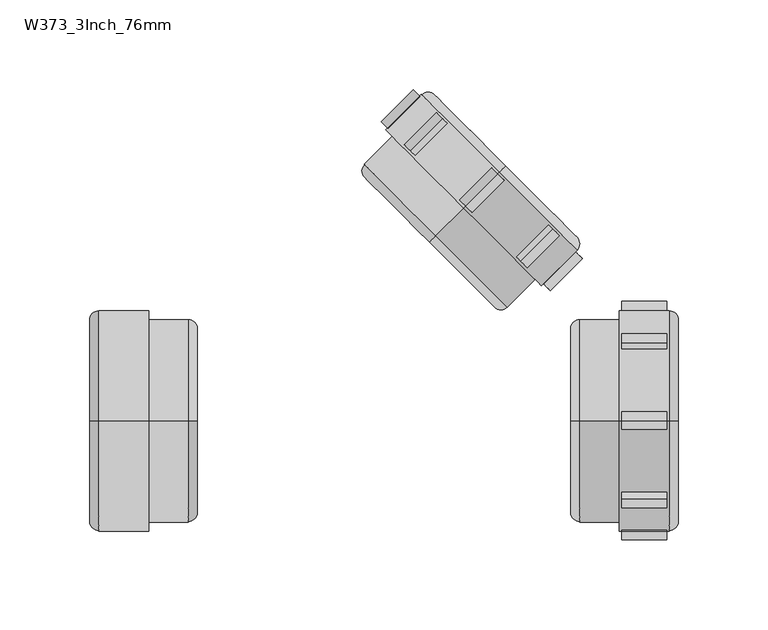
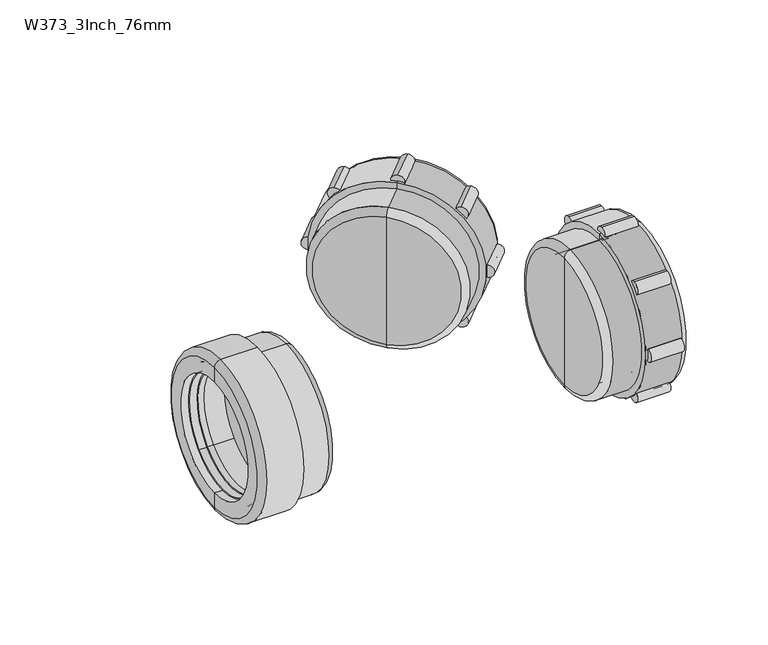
"""IFC4 building model written with IfcOpenShell, lengths in millimetres: pipe fitting geometry, Durapipe_PipeFitting_VulcatheneMechanical_SingleWye_W37 : W373_3Inch_76mm."""

from ifc_helpers import new_model, si_unit, point, frame, frame_2d, origin, place, context, project, spatial, polyline, circle_curve, ellipse_curve, trimmed, segment, composite_curve, outline, extrude, source, transform, mapped, element, save
from ifc_brep_helpers import plane_surface, cylinder_surface, revolved_surface, advanced_brep


def w373_3inch_76mm_de6eb33f(model_context):
    return source(origin(), model_context, "Body", "SolidModel", [
        advanced_brep(
        [(162.7701369, 111.8701369, -35.9917352), (159.4701369, 115.1701369, -31.3248304), (115.1701369, 159.4701369, 31.3248304), (111.8701369, 162.7701369, 35.9917352), (99.7158692, 146.2158692, 32.8804653), (146.2158692, 99.7158692, -32.8804653), (128.7503318, 82.2503318, -32.8804653), (82.2503318, 128.7503318, 32.8804653), (83.3503318, 127.6503318, 31.3248304), (127.6503318, 83.3503318, -31.3248304), (107.6040943, 151.9040943, 31.3248304), (151.9040943, 107.6040943, -31.3248304), (108.0540943, 151.4540943, 30.6884343), (151.4540943, 108.0540943, -30.6884343), (155.1567855, 110.8567855, -31.3248304), (154.7067855, 111.3067855, -30.6884343), (111.3067855, 154.7067855, 30.6884343), (110.8567855, 155.1567855, 31.3248304)],
        [
            (0, 1),
            (1, 2, circle_curve(frame((137.3201369, 137.3201369, 0.0), z_axis=(-0.7071067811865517, -0.7071067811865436, 0.0), x_axis=(-0.4999999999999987, 0.5000000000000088, 0.7071067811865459)), 44.3)),
            (2, 3),
            (3, 0, circle_curve(frame((137.3201369, 137.3201369, 0.0), z_axis=(0.7071067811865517, 0.7071067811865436, 0.0), x_axis=(-0.4999999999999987, 0.5000000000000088, 0.7071067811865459)), 50.9)),
            (2, 1, circle_curve(frame((137.3201369, 137.3201369, 0.0), z_axis=(-0.7071067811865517, -0.7071067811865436, 0.0), x_axis=(-0.4999999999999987, 0.5000000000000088, 0.7071067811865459)), 44.3)),
            (0, 3, circle_curve(frame((137.3201369, 137.3201369, 0.0), z_axis=(0.7071067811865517, 0.7071067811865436, 0.0), x_axis=(-0.4999999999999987, 0.5000000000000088, 0.7071067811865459)), 50.9)),
            (3, 4),
            (4, 5, circle_curve(frame((122.9658692, 122.9658692, 0.0), z_axis=(0.7071067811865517, 0.7071067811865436, 0.0), x_axis=(-0.4999999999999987, 0.5000000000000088, 0.7071067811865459)), 46.5)),
            (5, 0),
            (5, 4, circle_curve(frame((122.9658692, 122.9658692, 0.0), z_axis=(0.7071067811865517, 0.7071067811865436, 0.0), x_axis=(-0.4999999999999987, 0.5000000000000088, 0.7071067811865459)), 46.5)),
            (6, 5),
            (4, 7),
            (7, 6, circle_curve(frame((105.5003318, 105.5003318, 0.0), z_axis=(0.7071067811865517, 0.7071067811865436, 0.0), x_axis=(-0.4999999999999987, 0.5000000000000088, 0.7071067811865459)), 46.5)),
            (6, 7, circle_curve(frame((105.5003318, 105.5003318, 0.0), z_axis=(0.7071067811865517, 0.7071067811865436, 0.0), x_axis=(-0.4999999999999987, 0.5000000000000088, 0.7071067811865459)), 46.5)),
            (7, 8),
            (8, 9, circle_curve(frame((105.5003318, 105.5003318, 0.0), z_axis=(0.7071067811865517, 0.7071067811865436, 0.0), x_axis=(-0.4999999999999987, 0.5000000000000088, 0.7071067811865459)), 44.3)),
            (9, 6),
            (9, 8, circle_curve(frame((105.5003318, 105.5003318, 0.0), z_axis=(0.7071067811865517, 0.7071067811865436, 0.0), x_axis=(-0.4999999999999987, 0.5000000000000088, 0.7071067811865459)), 44.3)),
            (8, 10),
            (10, 11, circle_curve(frame((129.7540943, 129.7540943, 0.0), z_axis=(0.7071067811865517, 0.7071067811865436, 0.0), x_axis=(-0.4999999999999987, 0.5000000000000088, 0.7071067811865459)), 44.3)),
            (11, 9),
            (11, 10, circle_curve(frame((129.7540943, 129.7540943, 0.0), z_axis=(0.7071067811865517, 0.7071067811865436, 0.0), x_axis=(-0.4999999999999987, 0.5000000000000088, 0.7071067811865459)), 44.3)),
            (10, 12),
            (12, 13, circle_curve(frame((129.7540943, 129.7540943, 0.0), z_axis=(0.7071067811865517, 0.7071067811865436, 0.0), x_axis=(-0.4999999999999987, 0.5000000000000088, 0.7071067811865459)), 43.4)),
            (13, 11),
            (13, 12, circle_curve(frame((129.7540943, 129.7540943, 0.0), z_axis=(0.7071067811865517, 0.7071067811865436, 0.0), x_axis=(-0.4999999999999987, 0.5000000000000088, 0.7071067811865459)), 43.4)),
            (14, 15),
            (15, 16, circle_curve(frame((133.0067855, 133.0067855, 0.0), z_axis=(-0.7071067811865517, -0.7071067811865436, 0.0), x_axis=(-0.4999999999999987, 0.5000000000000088, 0.7071067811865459)), 43.4)),
            (16, 17),
            (17, 14, circle_curve(frame((133.0067855, 133.0067855, 0.0), z_axis=(0.7071067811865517, 0.7071067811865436, 0.0), x_axis=(-0.4999999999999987, 0.5000000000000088, 0.7071067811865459)), 44.3)),
            (16, 15, circle_curve(frame((133.0067855, 133.0067855, 0.0), z_axis=(-0.7071067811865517, -0.7071067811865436, 0.0), x_axis=(-0.4999999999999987, 0.5000000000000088, 0.7071067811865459)), 43.4)),
            (14, 17, circle_curve(frame((133.0067855, 133.0067855, 0.0), z_axis=(0.7071067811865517, 0.7071067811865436, 0.0), x_axis=(-0.4999999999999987, 0.5000000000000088, 0.7071067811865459)), 44.3)),
            (1, 14),
            (17, 2),
            (12, 16),
            (15, 13),
        ],
        [
            plane_surface(frame((137.3201369, 137.3201369, 0.0), z_axis=(0.7071067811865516, 0.7071067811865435, 0.0), x_axis=(-0.4999999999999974, 0.5000000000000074, 0.707106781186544))),
            revolved_surface(polyline([(111.8701369, 162.7701369, 35.9917352), (99.7158692, 146.2158692, 32.8804653)]), (140.8556708, 140.8556708, 0.0), (-0.7071067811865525, -0.7071067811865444, 0.0)),
            cylinder_surface(frame((104.0361571, 104.0361571, 0.0), z_axis=(-0.7071067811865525, -0.7071067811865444, 0.0), x_axis=(-0.4999999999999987, 0.5000000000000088, 0.7071067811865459)), 46.5),
            plane_surface(frame((105.5003318, 105.5003318, 0.0), z_axis=(-0.7071067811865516, -0.7071067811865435, 0.0), x_axis=(-0.4999999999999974, 0.5000000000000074, 0.707106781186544))),
            revolved_surface(polyline([(83.35033179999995, 127.65033180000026, 31.324830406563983), (107.6040943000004, 151.90409430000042, 31.324830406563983)]), (103.0304142, 103.0304142, 0.0), (-0.7071067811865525, -0.7071067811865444, 0.0)),
            plane_surface(frame((129.7540943, 129.7540943, 0.0), z_axis=(-0.7071067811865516, -0.7071067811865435, 0.0), x_axis=(-0.4999999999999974, 0.5000000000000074, 0.707106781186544))),
            plane_surface(frame((133.0067855, 133.0067855, 0.0), z_axis=(0.7071067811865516, 0.7071067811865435, 0.0), x_axis=(-0.4999999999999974, 0.5000000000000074, 0.707106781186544))),
            revolved_surface(polyline([(110.85678549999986, 155.15678550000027, 31.324830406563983), (115.17013690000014, 159.4701369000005, 31.324830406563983)]), (140.8556708, 140.8556708, 0.0), (-0.7071067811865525, -0.7071067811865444, 0.0)),
            revolved_surface(polyline([(108.05409429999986, 151.4540943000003, 30.68843430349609), (111.30678550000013, 154.70678550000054, 30.68843430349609)]), (138.4276022, 138.4276022, 0.0), (-0.7071067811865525, -0.7071067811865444, 0.0)),
        ],
        [
            (0, [[1, 2, 3, 4]]),
            (0, [[5, -1, 6, -3]]),
            (1, [[7, 8, 9, -4]]),
            (1, [[-9, 10, -7, -6]]),
            (2, [[11, -8, 12, 13]]),
            (2, [[-10, -11, 14, -12]]),
            (3, [[15, 16, 17, -13]]),
            (3, [[-17, 18, -15, -14]]),
            (4, [[-16, 19, 20, 21]]),
            (4, [[22, -19, -18, -21]]),
            (5, [[23, 24, 25, -20]]),
            (5, [[-25, 26, -23, -22]]),
            (6, [[27, 28, 29, 30]]),
            (6, [[-29, 31, -27, 32]]),
            (7, [[33, -30, 34, -2]]),
            (7, [[-34, -32, -33, -5]]),
            (8, [[-24, 35, -28, 36]]),
            (8, [[-31, -35, -26, -36]]),
        ],
    ),
        advanced_brep(
        [(118.4403858, 118.4403858, -61.5), (138.2393757, 138.2393757, -61.5), (138.2393757, 138.2393757, 61.5), (118.4403858, 118.4403858, 61.5), (118.4403858, 118.4403858, -56.5), (118.4403858, 118.4403858, 56.5), (141.7749096, 141.7749096, -56.5), (141.7749096, 141.7749096, -45.0), (141.7749096, 141.7749096, 45.0), (141.7749096, 141.7749096, 56.5), (137.3201369, 137.3201369, -53.0), (118.4403858, 118.4403858, -53.0), (118.4403858, 118.4403858, 53.0), (137.3201369, 137.3201369, 53.0), (137.3201369, 137.3201369, -45.0), (137.3201369, 137.3201369, 45.0), (102.8840367, 102.8840367, -56.5), (102.8840367, 102.8840367, 56.5), (99.3485028, 99.3485028, -51.5), (99.3485028, 99.3485028, 51.5), (99.3485028, 99.3485028, 0.0), (118.4403858, 118.4403858, 0.0)],
        [
            (0, 1),
            (1, 2, circle_curve(frame((138.2393757, 138.2393757, 0.0), z_axis=(-0.707106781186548, -0.7071067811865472, 0.0), x_axis=(0.0, 0.0, 1.0000000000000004)), 61.5)),
            (2, 3),
            (3, 0, circle_curve(frame((118.4403858, 118.4403858, 0.0), z_axis=(0.707106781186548, 0.7071067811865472, 0.0), x_axis=(0.0, 0.0, 1.0000000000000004)), 61.5)),
            (2, 1, circle_curve(frame((138.2393757, 138.2393757, 0.0), z_axis=(-0.707106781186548, -0.7071067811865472, 0.0), x_axis=(0.0, 0.0, 1.0000000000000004)), 61.5)),
            (0, 3, circle_curve(frame((118.4403858, 118.4403858, 0.0), z_axis=(0.707106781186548, 0.7071067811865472, 0.0), x_axis=(0.0, 0.0, 1.0000000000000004)), 61.5)),
            (4, 0),
            (3, 5),
            (5, 4, circle_curve(frame((118.4403858, 118.4403858, 0.0), z_axis=(0.707106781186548, 0.7071067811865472, 0.0), x_axis=(0.0, 0.0, 1.0000000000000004)), 56.5)),
            (4, 5, circle_curve(frame((118.4403858, 118.4403858, 0.0), z_axis=(0.707106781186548, 0.7071067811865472, 0.0), x_axis=(0.0, 0.0, 1.0000000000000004)), 56.5)),
            (6, 7),
            (7, 8, circle_curve(frame((141.7749096, 141.7749096, 0.0), z_axis=(-0.707106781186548, -0.7071067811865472, 0.0), x_axis=(0.0, 0.0, 1.0000000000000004)), 45.0)),
            (8, 9),
            (9, 6, circle_curve(frame((141.7749096, 141.7749096, 0.0), z_axis=(0.707106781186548, 0.7071067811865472, 0.0), x_axis=(0.0, 0.0, 1.0000000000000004)), 56.5)),
            (8, 7, circle_curve(frame((141.7749096, 141.7749096, 0.0), z_axis=(-0.707106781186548, -0.7071067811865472, 0.0), x_axis=(0.0, 0.0, 1.0000000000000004)), 45.0)),
            (6, 9, circle_curve(frame((141.7749096, 141.7749096, 0.0), z_axis=(0.707106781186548, 0.7071067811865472, 0.0), x_axis=(0.0, 0.0, 1.0000000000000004)), 56.5)),
            (1, 6, circle_curve(frame((138.2393757, 138.2393757, -56.5), z_axis=(0.7071067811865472, -0.707106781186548, 0.0), x_axis=(0.707106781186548, 0.7071067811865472, 0.0)), 5.0)),
            (9, 2, circle_curve(frame((138.2393757, 138.2393757, 56.5), z_axis=(0.7071067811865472, -0.707106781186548, 0.0), x_axis=(0.707106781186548, 0.7071067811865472, 0.0)), 5.0)),
            (10, 11),
            (11, 12, circle_curve(frame((118.4403858, 118.4403858, 0.0), z_axis=(-0.707106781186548, -0.7071067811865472, 0.0), x_axis=(0.0, 0.0, 1.0000000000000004)), 53.0)),
            (12, 13),
            (13, 10, circle_curve(frame((137.3201369, 137.3201369, 0.0), z_axis=(0.707106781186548, 0.7071067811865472, 0.0), x_axis=(0.0, 0.0, 1.0000000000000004)), 53.0)),
            (12, 11, circle_curve(frame((118.4403858, 118.4403858, 0.0), z_axis=(-0.707106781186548, -0.7071067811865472, 0.0), x_axis=(0.0, 0.0, 1.0000000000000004)), 53.0)),
            (10, 13, circle_curve(frame((137.3201369, 137.3201369, 0.0), z_axis=(0.707106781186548, 0.7071067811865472, 0.0), x_axis=(0.0, 0.0, 1.0000000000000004)), 53.0)),
            (14, 10),
            (13, 15),
            (15, 14, circle_curve(frame((137.3201369, 137.3201369, 0.0), z_axis=(0.707106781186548, 0.7071067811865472, 0.0), x_axis=(0.0, 0.0, 1.0000000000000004)), 45.0)),
            (14, 15, circle_curve(frame((137.3201369, 137.3201369, 0.0), z_axis=(0.707106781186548, 0.7071067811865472, 0.0), x_axis=(0.0, 0.0, 1.0000000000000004)), 45.0)),
            (7, 14),
            (15, 8),
            (16, 4),
            (5, 17),
            (17, 16, circle_curve(frame((102.8840367, 102.8840367, 0.0), z_axis=(0.707106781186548, 0.7071067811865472, 0.0), x_axis=(0.0, 0.0, 1.0000000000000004)), 56.5)),
            (16, 17, circle_curve(frame((102.8840367, 102.8840367, 0.0), z_axis=(0.707106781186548, 0.7071067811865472, 0.0), x_axis=(0.0, 0.0, 1.0000000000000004)), 56.5)),
            (18, 16, circle_curve(frame((102.8840367, 102.8840367, -51.5), z_axis=(0.7071067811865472, -0.707106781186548, 0.0), x_axis=(0.707106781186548, 0.7071067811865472, 0.0)), 5.0)),
            (17, 19, circle_curve(frame((102.8840367, 102.8840367, 51.5), z_axis=(0.7071067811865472, -0.707106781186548, 0.0), x_axis=(0.707106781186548, 0.7071067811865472, 0.0)), 5.0)),
            (19, 18, circle_curve(frame((99.3485028, 99.3485028, 0.0), z_axis=(0.707106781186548, 0.7071067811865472, 0.0), x_axis=(0.0, 0.0, 1.0000000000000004)), 51.5)),
            (18, 19, circle_curve(frame((99.3485028, 99.3485028, 0.0), z_axis=(0.707106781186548, 0.7071067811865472, 0.0), x_axis=(0.0, 0.0, 1.0000000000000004)), 51.5)),
            (20, 18),
            (19, 20),
            (11, 21),
            (21, 12),
        ],
        [
            cylinder_surface(frame((1245.4284595, 1245.4284595, 0.0), z_axis=(-0.707106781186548, -0.7071067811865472, 0.0), x_axis=(0.0, 0.0, 1.0000000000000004)), 61.5),
            plane_surface(frame((118.4403858, 118.4403858, 0.0), z_axis=(-0.7071067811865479, -0.7071067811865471, 0.0), x_axis=(0.0, 0.0, 1.0))),
            plane_surface(frame((141.7749096, 141.7749096, 0.0), z_axis=(0.7071067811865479, 0.7071067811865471, 0.0), x_axis=(0.0, 0.0, 1.0))),
            revolved_surface(trimmed(ellipse_curve(frame((138.2393757, 138.2393757, 56.5), z_axis=(0.7071067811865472, -0.707106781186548, 0.0), x_axis=(0.707106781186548, 0.7071067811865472, 0.0)), 5.0, 5.0), [point((141.7749096, 141.7749096, 56.5))], [point((138.2393757, 138.2393757, 61.5))], True, "CARTESIAN"), (1245.4284595, 1245.4284595, 0.0), (-0.707106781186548, -0.7071067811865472, 0.0)),
            revolved_surface(polyline([(118.44038579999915, 118.44038580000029, 53.00000000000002), (137.32013689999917, 137.3201369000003, 53.00000000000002)]), (1245.4284595, 1245.4284595, 0.0), (-0.707106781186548, -0.7071067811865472, 0.0)),
            plane_surface(frame((137.3201369, 137.3201369, 0.0), z_axis=(-0.7071067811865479, -0.7071067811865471, 0.0), x_axis=(0.0, 0.0, 1.0))),
            revolved_surface(polyline([(137.32013689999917, 137.3201369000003, 45.00000000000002), (141.7749095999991, 141.77490960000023, 45.00000000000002)]), (1245.4284595, 1245.4284595, 0.0), (-0.707106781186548, -0.7071067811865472, 0.0)),
            cylinder_surface(frame((1245.4284595, 1245.4284595, 0.0), z_axis=(-0.707106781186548, -0.7071067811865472, 0.0), x_axis=(0.0, 0.0, 1.0000000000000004)), 56.5),
            revolved_surface(trimmed(ellipse_curve(frame((102.8840367, 102.8840367, 51.5), z_axis=(0.7071067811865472, -0.707106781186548, 0.0), x_axis=(0.707106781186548, 0.7071067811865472, 0.0)), 5.0, 5.0), [point((102.8840367, 102.8840367, 56.5))], [point((99.3485028, 99.3485028, 51.5))], True, "CARTESIAN"), (1245.4284595, 1245.4284595, 0.0), (-0.707106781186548, -0.7071067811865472, 0.0)),
            plane_surface(frame((99.3485028, 99.3485028, 0.0), z_axis=(-0.7071067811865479, -0.7071067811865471, 0.0), x_axis=(0.0, 0.0, 1.0))),
            plane_surface(frame((118.4403858, 118.4403858, 0.0), z_axis=(0.7071067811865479, 0.7071067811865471, 0.0), x_axis=(0.0, 0.0, 1.0))),
        ],
        [
            (0, [[1, 2, 3, 4]]),
            (0, [[-3, 5, -1, 6]]),
            (1, [[7, -4, 8, 9]]),
            (1, [[-8, -6, -7, 10]]),
            (2, [[11, 12, 13, 14]]),
            (2, [[-13, 15, -11, 16]]),
            (3, [[17, -14, 18, -2]]),
            (3, [[-18, -16, -17, -5]]),
            (4, [[19, 20, 21, 22]]),
            (4, [[-21, 23, -19, 24]]),
            (5, [[25, -22, 26, 27]]),
            (5, [[-26, -24, -25, 28]]),
            (6, [[29, -27, 30, -12]]),
            (6, [[-30, -28, -29, -15]]),
            (7, [[31, -9, 32, 33]]),
            (7, [[-32, -10, -31, 34]]),
            (8, [[35, -33, 36, 37]]),
            (8, [[-36, -34, -35, 38]]),
            (9, [[39, -37, 40]]),
            (9, [[-40, -38, -39]]),
            (10, [[41, 42, -20]]),
            (10, [[-42, -41, -23]]),
        ],
    ),
        extrude(outline(composite_curve([segment(trimmed(circle_curve(frame_2d((0.0, 5.0)), 5.0), [point((0.0, 10.0))], [point((0.0, 0.0))], False, "CARTESIAN"), True, "CONTINUOUS"), segment(trimmed(circle_curve(frame_2d((0.0, 5.0)), 5.0), [point((0.0, 0.0))], [point((0.0, 10.0))], False, "CARTESIAN"), True, "CONTINUOUS")], self_intersect=False)), frame((76.013979, 162.9881131, 5.0), z_axis=(0.7071067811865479, 0.7071067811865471, 0.0), x_axis=(0.7071067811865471, -0.7071067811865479, 0.0)), (0.0, 0.0, 1.0), 25.2),
        extrude(outline(composite_curve([segment(trimmed(circle_curve(frame_2d((18.012933, -38.487067)), 5.0), [point((18.012933, -33.487067))], [point((18.012933, -43.487067))], False, "CARTESIAN"), True, "CONTINUOUS"), segment(trimmed(circle_curve(frame_2d((18.012933, -38.487067)), 5.0), [point((18.012933, -43.487067))], [point((18.012933, -33.487067))], False, "CARTESIAN"), True, "CONTINUOUS")], self_intersect=False)), frame((76.013979, 162.9881131, 5.0), z_axis=(0.7071067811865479, 0.7071067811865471, 0.0), x_axis=(0.7071067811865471, -0.7071067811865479, 0.0)), (0.0, 0.0, 1.0), 25.2),
        extrude(outline(composite_curve([segment(trimmed(circle_curve(frame_2d((61.5, -56.5)), 5.0), [point((61.5, -51.5))], [point((61.5, -61.5))], False, "CARTESIAN"), True, "CONTINUOUS"), segment(trimmed(circle_curve(frame_2d((61.5, -56.5)), 5.0), [point((61.5, -61.5))], [point((61.5, -51.5))], False, "CARTESIAN"), True, "CONTINUOUS")], self_intersect=False)), frame((76.013979, 162.9881131, 5.0), z_axis=(0.7071067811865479, 0.7071067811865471, 0.0), x_axis=(0.7071067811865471, -0.7071067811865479, 0.0)), (0.0, 0.0, 1.0), 25.2),
        extrude(outline(composite_curve([segment(trimmed(circle_curve(frame_2d((104.9870671, -38.487067)), 5.0), [point((104.9870671, -33.487067))], [point((104.9870671, -43.487067))], False, "CARTESIAN"), True, "CONTINUOUS"), segment(trimmed(circle_curve(frame_2d((104.9870671, -38.487067)), 5.0), [point((104.9870671, -43.487067))], [point((104.9870671, -33.487067))], False, "CARTESIAN"), True, "CONTINUOUS")], self_intersect=False)), frame((76.013979, 162.9881131, 5.0), z_axis=(0.7071067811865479, 0.7071067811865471, 0.0), x_axis=(0.7071067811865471, -0.7071067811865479, 0.0)), (0.0, 0.0, 1.0), 25.2),
        extrude(outline(composite_curve([segment(trimmed(circle_curve(frame_2d((123.0, 5.0)), 5.0), [point((123.0, 10.0))], [point((123.0, 0.0))], False, "CARTESIAN"), True, "CONTINUOUS"), segment(trimmed(circle_curve(frame_2d((123.0, 5.0)), 5.0), [point((123.0, 0.0))], [point((123.0, 10.0))], False, "CARTESIAN"), True, "CONTINUOUS")], self_intersect=False)), frame((76.013979, 162.9881131, 5.0), z_axis=(0.7071067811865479, 0.7071067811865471, 0.0), x_axis=(0.7071067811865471, -0.7071067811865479, 0.0)), (0.0, 0.0, 1.0), 25.2),
        extrude(outline(composite_curve([segment(trimmed(circle_curve(frame_2d((104.9870671, 48.487067)), 5.0), [point((104.9870671, 53.487067))], [point((104.9870671, 43.487067))], False, "CARTESIAN"), True, "CONTINUOUS"), segment(trimmed(circle_curve(frame_2d((104.9870671, 48.487067)), 5.0), [point((104.9870671, 43.487067))], [point((104.9870671, 53.487067))], False, "CARTESIAN"), True, "CONTINUOUS")], self_intersect=False)), frame((76.013979, 162.9881131, 5.0), z_axis=(0.7071067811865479, 0.7071067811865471, 0.0), x_axis=(0.7071067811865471, -0.7071067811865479, 0.0)), (0.0, 0.0, 1.0), 25.2),
        extrude(outline(composite_curve([segment(trimmed(circle_curve(frame_2d((61.5, 66.5)), 5.0), [point((61.5, 71.5))], [point((61.5, 61.5))], False, "CARTESIAN"), True, "CONTINUOUS"), segment(trimmed(circle_curve(frame_2d((61.5, 66.5)), 5.0), [point((61.5, 61.5))], [point((61.5, 71.5))], False, "CARTESIAN"), True, "CONTINUOUS")], self_intersect=False)), frame((76.013979, 162.9881131, 5.0), z_axis=(0.7071067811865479, 0.7071067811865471, 0.0), x_axis=(0.7071067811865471, -0.7071067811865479, 0.0)), (0.0, 0.0, 1.0), 25.2),
        extrude(outline(composite_curve([segment(trimmed(circle_curve(frame_2d((18.012933, 48.487067)), 5.0), [point((18.012933, 53.487067))], [point((18.012933, 43.487067))], False, "CARTESIAN"), True, "CONTINUOUS"), segment(trimmed(circle_curve(frame_2d((18.012933, 48.487067)), 5.0), [point((18.012933, 43.487067))], [point((18.012933, 53.487067))], False, "CARTESIAN"), True, "CONTINUOUS")], self_intersect=False)), frame((76.013979, 162.9881131, 5.0), z_axis=(0.7071067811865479, 0.7071067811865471, 0.0), x_axis=(0.7071067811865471, -0.7071067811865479, 0.0)), (0.0, 0.0, 1.0), 25.2),
        advanced_brep(
        [(231.6, 35.9917352, 35.9917352), (231.6, 31.3248304, 31.3248304), (231.6, -31.3248304, -31.3248304), (231.6, -35.9917352, -35.9917352), (211.3, -32.8804653, -32.8804653), (211.3, 32.8804653, 32.8804653), (186.6, 32.8804653, 32.8804653), (186.6, -32.8804653, -32.8804653), (186.6, -31.3248304, -31.3248304), (186.6, 31.3248304, 31.3248304), (220.9, -31.3248304, -31.3248304), (220.9, 31.3248304, 31.3248304), (220.9, -30.6884343, -30.6884343), (220.9, 30.6884343, 30.6884343), (225.5, 31.3248304, 31.3248304), (225.5, 30.6884343, 30.6884343), (225.5, -30.6884343, -30.6884343), (225.5, -31.3248304, -31.3248304)],
        [
            (0, 1),
            (1, 2, circle_curve(frame((231.6, 0.0, 0.0), z_axis=(-1.0, 0.0, 0.0), x_axis=(0.0, -0.7071067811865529, -0.7071067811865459)), 44.3)),
            (2, 3),
            (3, 0, circle_curve(frame((231.6, 0.0, 0.0), z_axis=(1.0, 0.0, 0.0), x_axis=(0.0, -0.7071067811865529, -0.7071067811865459)), 50.9)),
            (2, 1, circle_curve(frame((231.6, 0.0, 0.0), z_axis=(-1.0, 0.0, 0.0), x_axis=(0.0, -0.7071067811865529, -0.7071067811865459)), 44.3)),
            (0, 3, circle_curve(frame((231.6, 0.0, 0.0), z_axis=(1.0, 0.0, 0.0), x_axis=(0.0, -0.7071067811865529, -0.7071067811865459)), 50.9)),
            (3, 4),
            (4, 5, circle_curve(frame((211.3, 0.0, 0.0), z_axis=(1.0, 0.0, 0.0), x_axis=(0.0, -0.7071067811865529, -0.7071067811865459)), 46.5)),
            (5, 0),
            (5, 4, circle_curve(frame((211.3, 0.0, 0.0), z_axis=(1.0, 0.0, 0.0), x_axis=(0.0, -0.7071067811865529, -0.7071067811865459)), 46.5)),
            (6, 5),
            (4, 7),
            (7, 6, circle_curve(frame((186.6, 0.0, 0.0), z_axis=(1.0, 0.0, 0.0), x_axis=(0.0, -0.7071067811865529, -0.7071067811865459)), 46.5)),
            (6, 7, circle_curve(frame((186.6, 0.0, 0.0), z_axis=(1.0, 0.0, 0.0), x_axis=(0.0, -0.7071067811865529, -0.7071067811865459)), 46.5)),
            (7, 8),
            (8, 9, circle_curve(frame((186.6, 0.0, 0.0), z_axis=(1.0, 0.0, 0.0), x_axis=(0.0, -0.7071067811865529, -0.7071067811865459)), 44.3)),
            (9, 6),
            (9, 8, circle_curve(frame((186.6, 0.0, 0.0), z_axis=(1.0, 0.0, 0.0), x_axis=(0.0, -0.7071067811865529, -0.7071067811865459)), 44.3)),
            (8, 10),
            (10, 11, circle_curve(frame((220.9, 0.0, 0.0), z_axis=(1.0, 0.0, 0.0), x_axis=(0.0, -0.7071067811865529, -0.7071067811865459)), 44.3)),
            (11, 9),
            (11, 10, circle_curve(frame((220.9, 0.0, 0.0), z_axis=(1.0, 0.0, 0.0), x_axis=(0.0, -0.7071067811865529, -0.7071067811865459)), 44.3)),
            (10, 12),
            (12, 13, circle_curve(frame((220.9, 0.0, 0.0), z_axis=(1.0, 0.0, 0.0), x_axis=(0.0, -0.7071067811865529, -0.7071067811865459)), 43.4)),
            (13, 11),
            (13, 12, circle_curve(frame((220.9, 0.0, 0.0), z_axis=(1.0, 0.0, 0.0), x_axis=(0.0, -0.7071067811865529, -0.7071067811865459)), 43.4)),
            (14, 15),
            (15, 16, circle_curve(frame((225.5, 0.0, 0.0), z_axis=(-1.0, 0.0, 0.0), x_axis=(0.0, -0.7071067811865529, -0.7071067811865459)), 43.4)),
            (16, 17),
            (17, 14, circle_curve(frame((225.5, 0.0, 0.0), z_axis=(1.0, 0.0, 0.0), x_axis=(0.0, -0.7071067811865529, -0.7071067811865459)), 44.3)),
            (16, 15, circle_curve(frame((225.5, 0.0, 0.0), z_axis=(-1.0, 0.0, 0.0), x_axis=(0.0, -0.7071067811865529, -0.7071067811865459)), 43.4)),
            (14, 17, circle_curve(frame((225.5, 0.0, 0.0), z_axis=(1.0, 0.0, 0.0), x_axis=(0.0, -0.7071067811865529, -0.7071067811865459)), 44.3)),
            (1, 14),
            (17, 2),
            (12, 16),
            (15, 13),
        ],
        [
            plane_surface(frame((231.6, 0.0, 0.0), z_axis=(1.0, 0.0, 0.0), x_axis=(0.0, -0.707106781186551, -0.707106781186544))),
            revolved_surface(polyline([(231.6, -35.9917352, -35.9917352), (211.3, -32.8804653, -32.8804653)]), (236.6, 0.0, 0.0), (-1.0000000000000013, 0.0, 0.0)),
            cylinder_surface(frame((184.5293443, 0.0, 0.0), z_axis=(-1.0000000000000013, 0.0, 0.0), x_axis=(0.0, -0.7071067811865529, -0.7071067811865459)), 46.5),
            plane_surface(frame((186.6, 0.0, 0.0), z_axis=(-1.0, 0.0, 0.0), x_axis=(0.0, -0.707106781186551, -0.707106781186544))),
            revolved_surface(polyline([(186.6, -31.324830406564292, -31.324830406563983), (220.9000000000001, -31.324830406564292, -31.324830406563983)]), (183.107009, 0.0, 0.0), (-1.0000000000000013, 0.0, 0.0)),
            plane_surface(frame((220.9, 0.0, 0.0), z_axis=(-1.0, 0.0, 0.0), x_axis=(0.0, -0.707106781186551, -0.707106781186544))),
            plane_surface(frame((225.5, 0.0, 0.0), z_axis=(1.0, 0.0, 0.0), x_axis=(0.0, -0.707106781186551, -0.707106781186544))),
            revolved_surface(polyline([(225.49999999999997, -31.324830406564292, -31.324830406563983), (231.59999999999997, -31.324830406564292, -31.324830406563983)]), (236.6, 0.0, 0.0), (-1.0000000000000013, 0.0, 0.0)),
            revolved_surface(polyline([(220.89999999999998, -30.688434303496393, -30.68843430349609), (225.49999999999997, -30.688434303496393, -30.68843430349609)]), (233.1661924, 0.0, 0.0), (-1.0000000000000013, 0.0, 0.0)),
        ],
        [
            (0, [[1, 2, 3, 4]]),
            (0, [[5, -1, 6, -3]]),
            (1, [[7, 8, 9, -4]]),
            (1, [[-9, 10, -7, -6]]),
            (2, [[11, -8, 12, 13]]),
            (2, [[-10, -11, 14, -12]]),
            (3, [[15, 16, 17, -13]]),
            (3, [[-17, 18, -15, -14]]),
            (4, [[-16, 19, 20, 21]]),
            (4, [[22, -19, -18, -21]]),
            (5, [[23, 24, 25, -20]]),
            (5, [[-25, 26, -23, -22]]),
            (6, [[27, 28, 29, 30]]),
            (6, [[-29, 31, -27, 32]]),
            (7, [[33, -30, 34, -2]]),
            (7, [[-34, -32, -33, -5]]),
            (8, [[-24, 35, -28, 36]]),
            (8, [[-31, -35, -26, -36]]),
        ],
    ),
        advanced_brep(
        [(204.9, 0.0, 61.5), (232.9, 0.0, 61.5), (232.9, 0.0, -61.5), (204.9, 0.0, -61.5), (204.9, 0.0, 56.5), (204.9, 0.0, -56.5), (237.9, 0.0, 56.5), (237.9, 0.0, 45.0), (237.9, 0.0, -45.0), (237.9, 0.0, -56.5), (231.6, 0.0, 53.0), (204.9, 0.0, 53.0), (204.9, 0.0, -53.0), (231.6, 0.0, -53.0), (231.6, 0.0, 45.0), (231.6, 0.0, -45.0), (182.9, 0.0, 56.5), (182.9, 0.0, -56.5), (177.9, 0.0, 51.5), (177.9, 0.0, -51.5), (177.9, 0.0, 0.0), (204.9, 0.0, 0.0)],
        [
            (0, 1),
            (1, 2, circle_curve(frame((232.9, 0.0, 0.0), z_axis=(-1.0, 0.0, 0.0), x_axis=(0.0, 0.0, -1.0000000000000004)), 61.5)),
            (2, 3),
            (3, 0, circle_curve(frame((204.9, 0.0, 0.0), z_axis=(1.0, 0.0, 0.0), x_axis=(0.0, 0.0, -1.0000000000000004)), 61.5)),
            (2, 1, circle_curve(frame((232.9, 0.0, 0.0), z_axis=(-1.0, 0.0, 0.0), x_axis=(0.0, 0.0, -1.0000000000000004)), 61.5)),
            (0, 3, circle_curve(frame((204.9, 0.0, 0.0), z_axis=(1.0, 0.0, 0.0), x_axis=(0.0, 0.0, -1.0000000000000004)), 61.5)),
            (4, 0),
            (3, 5),
            (5, 4, circle_curve(frame((204.9, 0.0, 0.0), z_axis=(1.0, 0.0, 0.0), x_axis=(0.0, 0.0, -1.0000000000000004)), 56.5)),
            (4, 5, circle_curve(frame((204.9, 0.0, 0.0), z_axis=(1.0, 0.0, 0.0), x_axis=(0.0, 0.0, -1.0000000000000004)), 56.5)),
            (6, 7),
            (7, 8, circle_curve(frame((237.9, 0.0, 0.0), z_axis=(-1.0, 0.0, 0.0), x_axis=(0.0, 0.0, -1.0000000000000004)), 45.0)),
            (8, 9),
            (9, 6, circle_curve(frame((237.9, 0.0, 0.0), z_axis=(1.0, 0.0, 0.0), x_axis=(0.0, 0.0, -1.0000000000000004)), 56.5)),
            (8, 7, circle_curve(frame((237.9, 0.0, 0.0), z_axis=(-1.0, 0.0, 0.0), x_axis=(0.0, 0.0, -1.0000000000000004)), 45.0)),
            (6, 9, circle_curve(frame((237.9, 0.0, 0.0), z_axis=(1.0, 0.0, 0.0), x_axis=(0.0, 0.0, -1.0000000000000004)), 56.5)),
            (1, 6, circle_curve(frame((232.9, 0.0, 56.5), z_axis=(0.0, 1.0000000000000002, 0.0), x_axis=(1.0000000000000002, 0.0, 0.0)), 5.0)),
            (9, 2, circle_curve(frame((232.9, 0.0, -56.5), z_axis=(0.0, 1.0000000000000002, 0.0), x_axis=(1.0000000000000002, 0.0, 0.0)), 5.0)),
            (10, 11),
            (11, 12, circle_curve(frame((204.9, 0.0, 0.0), z_axis=(-1.0, 0.0, 0.0), x_axis=(0.0, 0.0, -1.0000000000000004)), 53.0)),
            (12, 13),
            (13, 10, circle_curve(frame((231.6, 0.0, 0.0), z_axis=(1.0, 0.0, 0.0), x_axis=(0.0, 0.0, -1.0000000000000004)), 53.0)),
            (12, 11, circle_curve(frame((204.9, 0.0, 0.0), z_axis=(-1.0, 0.0, 0.0), x_axis=(0.0, 0.0, -1.0000000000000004)), 53.0)),
            (10, 13, circle_curve(frame((231.6, 0.0, 0.0), z_axis=(1.0, 0.0, 0.0), x_axis=(0.0, 0.0, -1.0000000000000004)), 53.0)),
            (14, 10),
            (13, 15),
            (15, 14, circle_curve(frame((231.6, 0.0, 0.0), z_axis=(1.0, 0.0, 0.0), x_axis=(0.0, 0.0, -1.0000000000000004)), 45.0)),
            (14, 15, circle_curve(frame((231.6, 0.0, 0.0), z_axis=(1.0, 0.0, 0.0), x_axis=(0.0, 0.0, -1.0000000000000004)), 45.0)),
            (7, 14),
            (15, 8),
            (16, 4),
            (5, 17),
            (17, 16, circle_curve(frame((182.9, 0.0, 0.0), z_axis=(1.0, 0.0, 0.0), x_axis=(0.0, 0.0, -1.0000000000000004)), 56.5)),
            (16, 17, circle_curve(frame((182.9, 0.0, 0.0), z_axis=(1.0, 0.0, 0.0), x_axis=(0.0, 0.0, -1.0000000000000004)), 56.5)),
            (18, 16, circle_curve(frame((182.9, 0.0, 51.5), z_axis=(0.0, 1.0000000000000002, 0.0), x_axis=(1.0000000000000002, 0.0, 0.0)), 5.0)),
            (17, 19, circle_curve(frame((182.9, 0.0, -51.5), z_axis=(0.0, 1.0000000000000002, 0.0), x_axis=(1.0000000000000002, 0.0, 0.0)), 5.0)),
            (19, 18, circle_curve(frame((177.9, 0.0, 0.0), z_axis=(1.0, 0.0, 0.0), x_axis=(0.0, 0.0, -1.0000000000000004)), 51.5)),
            (18, 19, circle_curve(frame((177.9, 0.0, 0.0), z_axis=(1.0, 0.0, 0.0), x_axis=(0.0, 0.0, -1.0000000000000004)), 51.5)),
            (20, 18),
            (19, 20),
            (11, 21),
            (21, 12),
        ],
        [
            cylinder_surface(frame((1798.7018184, 0.0, 0.0), z_axis=(-1.0000000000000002, 0.0, 0.0), x_axis=(0.0, 0.0, -1.0000000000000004)), 61.5),
            plane_surface(frame((204.9, 0.0, 0.0), z_axis=(-1.0, 0.0, 0.0), x_axis=(0.0, 0.0, -1.0))),
            plane_surface(frame((237.9, 0.0, 0.0), z_axis=(1.0, 0.0, 0.0), x_axis=(0.0, 0.0, -1.0))),
            revolved_surface(trimmed(ellipse_curve(frame((232.9, 0.0, -56.5), z_axis=(0.0, 1.0000000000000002, 0.0), x_axis=(1.0000000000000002, 0.0, 0.0)), 5.0, 5.0), [point((237.9, 0.0, -56.5))], [point((232.9, 0.0, -61.5))], True, "CARTESIAN"), (1798.7018184, 0.0, 0.0), (-1.0000000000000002, 0.0, 0.0)),
            revolved_surface(polyline([(204.89999999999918, 0.0, -53.00000000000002), (231.599999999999, 0.0, -53.00000000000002)]), (1798.7018184, 0.0, 0.0), (-1.0000000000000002, 0.0, 0.0)),
            plane_surface(frame((231.6, 0.0, 0.0), z_axis=(-1.0, 0.0, 0.0), x_axis=(0.0, 0.0, -1.0))),
            revolved_surface(polyline([(231.599999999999, 0.0, -45.00000000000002), (237.89999999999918, 0.0, -45.00000000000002)]), (1798.7018184, 0.0, 0.0), (-1.0000000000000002, 0.0, 0.0)),
            cylinder_surface(frame((1798.7018184, 0.0, 0.0), z_axis=(-1.0000000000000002, 0.0, 0.0), x_axis=(0.0, 0.0, -1.0000000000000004)), 56.5),
            revolved_surface(trimmed(ellipse_curve(frame((182.9, 0.0, -51.5), z_axis=(0.0, 1.0000000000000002, 0.0), x_axis=(1.0000000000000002, 0.0, 0.0)), 5.0, 5.0), [point((182.9, 0.0, -56.5))], [point((177.9, 0.0, -51.5))], True, "CARTESIAN"), (1798.7018184, 0.0, 0.0), (-1.0000000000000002, 0.0, 0.0)),
            plane_surface(frame((177.9, 0.0, 0.0), z_axis=(-1.0, 0.0, 0.0), x_axis=(0.0, 0.0, -1.0))),
            plane_surface(frame((204.9, 0.0, 0.0), z_axis=(1.0, 0.0, 0.0), x_axis=(0.0, 0.0, -1.0))),
        ],
        [
            (0, [[1, 2, 3, 4]]),
            (0, [[-3, 5, -1, 6]]),
            (1, [[7, -4, 8, 9]]),
            (1, [[-8, -6, -7, 10]]),
            (2, [[11, 12, 13, 14]]),
            (2, [[-13, 15, -11, 16]]),
            (3, [[17, -14, 18, -2]]),
            (3, [[-18, -16, -17, -5]]),
            (4, [[19, 20, 21, 22]]),
            (4, [[-21, 23, -19, 24]]),
            (5, [[25, -22, 26, 27]]),
            (5, [[-26, -24, -25, 28]]),
            (6, [[29, -27, 30, -12]]),
            (6, [[-30, -28, -29, -15]]),
            (7, [[31, -9, 32, 33]]),
            (7, [[-32, -10, -31, 34]]),
            (8, [[35, -33, 36, 37]]),
            (8, [[-36, -34, -35, 38]]),
            (9, [[39, -37, 40]]),
            (9, [[-40, -38, -39]]),
            (10, [[41, 42, -20]]),
            (10, [[-42, -41, -23]]),
        ],
    ),
        extrude(outline(composite_curve([segment(trimmed(circle_curve(frame_2d((-61.5, 0.0)), 5.0), [point((-61.5, 5.0))], [point((-61.5, -5.0))], False, "CARTESIAN"), True, "CONTINUOUS"), segment(trimmed(circle_curve(frame_2d((-61.5, 0.0)), 5.0), [point((-61.5, -5.0))], [point((-61.5, 5.0))], False, "CARTESIAN"), True, "CONTINUOUS")], self_intersect=False)), frame((206.4, 0.0, 0.0), z_axis=(1.0, 0.0, 0.0), x_axis=(0.0, 1.0, 0.0)), (0.0, 0.0, 1.0), 25.2),
        extrude(outline(composite_curve([segment(trimmed(circle_curve(frame_2d((-43.487067, -43.487067)), 5.0), [point((-43.487067, -38.487067))], [point((-43.487067, -48.487067))], False, "CARTESIAN"), True, "CONTINUOUS"), segment(trimmed(circle_curve(frame_2d((-43.487067, -43.487067)), 5.0), [point((-43.487067, -48.487067))], [point((-43.487067, -38.487067))], False, "CARTESIAN"), True, "CONTINUOUS")], self_intersect=False)), frame((206.4, 0.0, 0.0), z_axis=(1.0, 0.0, 0.0), x_axis=(0.0, 1.0, 0.0)), (0.0, 0.0, 1.0), 25.2),
        extrude(outline(composite_curve([segment(trimmed(circle_curve(frame_2d((0.0, -61.5)), 5.0), [point((0.0, -56.5))], [point((0.0, -66.5))], False, "CARTESIAN"), True, "CONTINUOUS"), segment(trimmed(circle_curve(frame_2d((0.0, -61.5)), 5.0), [point((0.0, -66.5))], [point((0.0, -56.5))], False, "CARTESIAN"), True, "CONTINUOUS")], self_intersect=False)), frame((206.4, 0.0, 0.0), z_axis=(1.0, 0.0, 0.0), x_axis=(0.0, 1.0, 0.0)), (0.0, 0.0, 1.0), 25.2),
        extrude(outline(composite_curve([segment(trimmed(circle_curve(frame_2d((43.487067, -43.487067)), 5.0), [point((43.487067, -38.487067))], [point((43.487067, -48.487067))], False, "CARTESIAN"), True, "CONTINUOUS"), segment(trimmed(circle_curve(frame_2d((43.487067, -43.487067)), 5.0), [point((43.487067, -48.487067))], [point((43.487067, -38.487067))], False, "CARTESIAN"), True, "CONTINUOUS")], self_intersect=False)), frame((206.4, 0.0, 0.0), z_axis=(1.0, 0.0, 0.0), x_axis=(0.0, 1.0, 0.0)), (0.0, 0.0, 1.0), 25.2),
        extrude(outline(composite_curve([segment(trimmed(circle_curve(frame_2d((61.5, 0.0)), 5.0), [point((61.5, 5.0))], [point((61.5, -5.0))], False, "CARTESIAN"), True, "CONTINUOUS"), segment(trimmed(circle_curve(frame_2d((61.5, 0.0)), 5.0), [point((61.5, -5.0))], [point((61.5, 5.0))], False, "CARTESIAN"), True, "CONTINUOUS")], self_intersect=False)), frame((206.4, 0.0, 0.0), z_axis=(1.0, 0.0, 0.0), x_axis=(0.0, 1.0, 0.0)), (0.0, 0.0, 1.0), 25.2),
        extrude(outline(composite_curve([segment(trimmed(circle_curve(frame_2d((43.487067, 43.487067)), 5.0), [point((43.487067, 48.487067))], [point((43.487067, 38.487067))], False, "CARTESIAN"), True, "CONTINUOUS"), segment(trimmed(circle_curve(frame_2d((43.487067, 43.487067)), 5.0), [point((43.487067, 38.487067))], [point((43.487067, 48.487067))], False, "CARTESIAN"), True, "CONTINUOUS")], self_intersect=False)), frame((206.4, 0.0, 0.0), z_axis=(1.0, 0.0, 0.0), x_axis=(0.0, 1.0, 0.0)), (0.0, 0.0, 1.0), 25.2),
        extrude(outline(composite_curve([segment(trimmed(circle_curve(frame_2d((0.0, 61.5)), 5.0), [point((0.0, 66.5))], [point((0.0, 56.5))], False, "CARTESIAN"), True, "CONTINUOUS"), segment(trimmed(circle_curve(frame_2d((0.0, 61.5)), 5.0), [point((0.0, 56.5))], [point((0.0, 66.5))], False, "CARTESIAN"), True, "CONTINUOUS")], self_intersect=False)), frame((206.4, 0.0, 0.0), z_axis=(1.0, 0.0, 0.0), x_axis=(0.0, 1.0, 0.0)), (0.0, 0.0, 1.0), 25.2),
        extrude(outline(composite_curve([segment(trimmed(circle_curve(frame_2d((-43.487067, 43.487067)), 5.0), [point((-43.487067, 48.487067))], [point((-43.487067, 38.487067))], False, "CARTESIAN"), True, "CONTINUOUS"), segment(trimmed(circle_curve(frame_2d((-43.487067, 43.487067)), 5.0), [point((-43.487067, 38.487067))], [point((-43.487067, 48.487067))], False, "CARTESIAN"), True, "CONTINUOUS")], self_intersect=False)), frame((206.4, 0.0, 0.0), z_axis=(1.0, 0.0, 0.0), x_axis=(0.0, 1.0, 0.0)), (0.0, 0.0, 1.0), 25.2),
        advanced_brep(
        [(-83.7, 35.9917352, -35.9917352), (-83.7, 31.3248304, -31.3248304), (-83.7, -31.3248304, 31.3248304), (-83.7, -35.9917352, 35.9917352), (-63.4, -32.8804653, 32.8804653), (-63.4, 32.8804653, -32.8804653), (-38.7, 32.8804653, -32.8804653), (-38.7, -32.8804653, 32.8804653), (-38.7, -31.3248304, 31.3248304), (-38.7, 31.3248304, -31.3248304), (-73.0, -31.3248304, 31.3248304), (-73.0, 31.3248304, -31.3248304), (-73.0, -30.6884343, 30.6884343), (-73.0, 30.6884343, -30.6884343), (-77.6, 31.3248304, -31.3248304), (-77.6, 30.6884343, -30.6884343), (-77.6, -30.6884343, 30.6884343), (-77.6, -31.3248304, 31.3248304)],
        [
            (0, 1),
            (1, 2, circle_curve(frame((-83.7, 0.0, 0.0), z_axis=(1.0, 0.0, 0.0), x_axis=(0.0, -0.7071067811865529, 0.7071067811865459)), 44.3)),
            (2, 3),
            (3, 0, circle_curve(frame((-83.7, 0.0, 0.0), z_axis=(-1.0, 0.0, 0.0), x_axis=(0.0, -0.7071067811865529, 0.7071067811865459)), 50.9)),
            (2, 1, circle_curve(frame((-83.7, 0.0, 0.0), z_axis=(1.0, 0.0, 0.0), x_axis=(0.0, -0.7071067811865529, 0.7071067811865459)), 44.3)),
            (0, 3, circle_curve(frame((-83.7, 0.0, 0.0), z_axis=(-1.0, 0.0, 0.0), x_axis=(0.0, -0.7071067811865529, 0.7071067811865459)), 50.9)),
            (3, 4),
            (4, 5, circle_curve(frame((-63.4, 0.0, 0.0), z_axis=(-1.0, 0.0, 0.0), x_axis=(0.0, -0.7071067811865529, 0.7071067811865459)), 46.5)),
            (5, 0),
            (5, 4, circle_curve(frame((-63.4, 0.0, 0.0), z_axis=(-1.0, 0.0, 0.0), x_axis=(0.0, -0.7071067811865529, 0.7071067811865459)), 46.5)),
            (6, 5),
            (4, 7),
            (7, 6, circle_curve(frame((-38.7, 0.0, 0.0), z_axis=(-1.0, 0.0, 0.0), x_axis=(0.0, -0.7071067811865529, 0.7071067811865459)), 46.5)),
            (6, 7, circle_curve(frame((-38.7, 0.0, 0.0), z_axis=(-1.0, 0.0, 0.0), x_axis=(0.0, -0.7071067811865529, 0.7071067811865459)), 46.5)),
            (7, 8),
            (8, 9, circle_curve(frame((-38.7, 0.0, 0.0), z_axis=(-1.0, 0.0, 0.0), x_axis=(0.0, -0.7071067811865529, 0.7071067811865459)), 44.3)),
            (9, 6),
            (9, 8, circle_curve(frame((-38.7, 0.0, 0.0), z_axis=(-1.0, 0.0, 0.0), x_axis=(0.0, -0.7071067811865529, 0.7071067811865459)), 44.3)),
            (8, 10),
            (10, 11, circle_curve(frame((-73.0, 0.0, 0.0), z_axis=(-1.0, 0.0, 0.0), x_axis=(0.0, -0.7071067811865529, 0.7071067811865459)), 44.3)),
            (11, 9),
            (11, 10, circle_curve(frame((-73.0, 0.0, 0.0), z_axis=(-1.0, 0.0, 0.0), x_axis=(0.0, -0.7071067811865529, 0.7071067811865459)), 44.3)),
            (10, 12),
            (12, 13, circle_curve(frame((-73.0, 0.0, 0.0), z_axis=(-1.0, 0.0, 0.0), x_axis=(0.0, -0.7071067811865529, 0.7071067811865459)), 43.4)),
            (13, 11),
            (13, 12, circle_curve(frame((-73.0, 0.0, 0.0), z_axis=(-1.0, 0.0, 0.0), x_axis=(0.0, -0.7071067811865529, 0.7071067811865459)), 43.4)),
            (14, 15),
            (15, 16, circle_curve(frame((-77.6, 0.0, 0.0), z_axis=(1.0, 0.0, 0.0), x_axis=(0.0, -0.7071067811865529, 0.7071067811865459)), 43.4)),
            (16, 17),
            (17, 14, circle_curve(frame((-77.6, 0.0, 0.0), z_axis=(-1.0, 0.0, 0.0), x_axis=(0.0, -0.7071067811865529, 0.7071067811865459)), 44.3)),
            (16, 15, circle_curve(frame((-77.6, 0.0, 0.0), z_axis=(1.0, 0.0, 0.0), x_axis=(0.0, -0.7071067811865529, 0.7071067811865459)), 43.4)),
            (14, 17, circle_curve(frame((-77.6, 0.0, 0.0), z_axis=(-1.0, 0.0, 0.0), x_axis=(0.0, -0.7071067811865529, 0.7071067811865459)), 44.3)),
            (1, 14),
            (17, 2),
            (12, 16),
            (15, 13),
        ],
        [
            plane_surface(frame((-83.7, 0.0, 0.0), z_axis=(-1.0, 0.0, 0.0), x_axis=(0.0, -0.707106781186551, 0.707106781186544))),
            revolved_surface(polyline([(-83.7, -35.9917352, 35.9917352), (-63.4, -32.8804653, 32.8804653)]), (-88.7, 0.0, 0.0), (1.0000000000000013, 0.0, 0.0)),
            cylinder_surface(frame((-36.6293443, 0.0, 0.0), z_axis=(1.0000000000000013, 0.0, 0.0), x_axis=(0.0, -0.7071067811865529, 0.7071067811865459)), 46.5),
            plane_surface(frame((-38.7, 0.0, 0.0), z_axis=(1.0, 0.0, 0.0), x_axis=(0.0, -0.707106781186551, 0.707106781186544))),
            revolved_surface(polyline([(-38.70000000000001, -31.324830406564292, 31.324830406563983), (-73.0000000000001, -31.324830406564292, 31.324830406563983)]), (-35.207009, 0.0, 0.0), (1.0000000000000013, 0.0, 0.0)),
            plane_surface(frame((-73.0, 0.0, 0.0), z_axis=(1.0, 0.0, 0.0), x_axis=(0.0, -0.707106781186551, 0.707106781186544))),
            plane_surface(frame((-77.6, 0.0, 0.0), z_axis=(-1.0, 0.0, 0.0), x_axis=(0.0, -0.707106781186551, 0.707106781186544))),
            revolved_surface(polyline([(-77.59999999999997, -31.324830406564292, 31.324830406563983), (-83.69999999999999, -31.324830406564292, 31.324830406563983)]), (-88.7, 0.0, 0.0), (1.0000000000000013, 0.0, 0.0)),
            revolved_surface(polyline([(-72.99999999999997, -30.688434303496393, 30.68843430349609), (-77.59999999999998, -30.688434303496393, 30.68843430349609)]), (-85.2661924, 0.0, 0.0), (1.0000000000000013, 0.0, 0.0)),
        ],
        [
            (0, [[1, 2, 3, 4]]),
            (0, [[5, -1, 6, -3]]),
            (1, [[7, 8, 9, -4]]),
            (1, [[-9, 10, -7, -6]]),
            (2, [[11, -8, 12, 13]]),
            (2, [[-10, -11, 14, -12]]),
            (3, [[15, 16, 17, -13]]),
            (3, [[-17, 18, -15, -14]]),
            (4, [[-16, 19, 20, 21]]),
            (4, [[22, -19, -18, -21]]),
            (5, [[23, 24, 25, -20]]),
            (5, [[-25, 26, -23, -22]]),
            (6, [[27, 28, 29, 30]]),
            (6, [[-29, 31, -27, 32]]),
            (7, [[33, -30, 34, -2]]),
            (7, [[-34, -32, -33, -5]]),
            (8, [[-24, 35, -28, 36]]),
            (8, [[-31, -35, -26, -36]]),
        ],
    ),
        advanced_brep(
        [(-57.0, 0.0, -61.5), (-85.0, 0.0, -61.5), (-85.0, 0.0, 61.5), (-57.0, 0.0, 61.5), (-57.0, 0.0, -56.5), (-57.0, 0.0, 56.5), (-90.0, 0.0, -56.5), (-90.0, 0.0, -45.0), (-90.0, 0.0, 45.0), (-90.0, 0.0, 56.5), (-83.7, 0.0, -53.0), (-57.0, 0.0, -53.0), (-57.0, 0.0, 53.0), (-83.7, 0.0, 53.0), (-83.7, 0.0, -45.0), (-83.7, 0.0, 45.0), (-35.0, 0.0, -56.5), (-35.0, 0.0, 56.5), (-30.0, 0.0, -51.5), (-30.0, 0.0, 51.5), (-30.0, 0.0, 0.0), (-57.0, 0.0, 0.0)],
        [
            (0, 1),
            (1, 2, circle_curve(frame((-85.0, 0.0, 0.0), z_axis=(1.0, 0.0, 0.0), x_axis=(0.0, 0.0, 1.0000000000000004)), 61.5)),
            (2, 3),
            (3, 0, circle_curve(frame((-57.0, 0.0, 0.0), z_axis=(-1.0, 0.0, 0.0), x_axis=(0.0, 0.0, 1.0000000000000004)), 61.5)),
            (2, 1, circle_curve(frame((-85.0, 0.0, 0.0), z_axis=(1.0, 0.0, 0.0), x_axis=(0.0, 0.0, 1.0000000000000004)), 61.5)),
            (0, 3, circle_curve(frame((-57.0, 0.0, 0.0), z_axis=(-1.0, 0.0, 0.0), x_axis=(0.0, 0.0, 1.0000000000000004)), 61.5)),
            (4, 0),
            (3, 5),
            (5, 4, circle_curve(frame((-57.0, 0.0, 0.0), z_axis=(-1.0, 0.0, 0.0), x_axis=(0.0, 0.0, 1.0000000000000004)), 56.5)),
            (4, 5, circle_curve(frame((-57.0, 0.0, 0.0), z_axis=(-1.0, 0.0, 0.0), x_axis=(0.0, 0.0, 1.0000000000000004)), 56.5)),
            (6, 7),
            (7, 8, circle_curve(frame((-90.0, 0.0, 0.0), z_axis=(1.0, 0.0, 0.0), x_axis=(0.0, 0.0, 1.0000000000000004)), 45.0)),
            (8, 9),
            (9, 6, circle_curve(frame((-90.0, 0.0, 0.0), z_axis=(-1.0, 0.0, 0.0), x_axis=(0.0, 0.0, 1.0000000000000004)), 56.5)),
            (8, 7, circle_curve(frame((-90.0, 0.0, 0.0), z_axis=(1.0, 0.0, 0.0), x_axis=(0.0, 0.0, 1.0000000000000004)), 45.0)),
            (6, 9, circle_curve(frame((-90.0, 0.0, 0.0), z_axis=(-1.0, 0.0, 0.0), x_axis=(0.0, 0.0, 1.0000000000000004)), 56.5)),
            (1, 6, circle_curve(frame((-85.0, 0.0, -56.5), z_axis=(0.0, 1.0000000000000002, 0.0), x_axis=(-1.0000000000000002, 0.0, 0.0)), 5.0)),
            (9, 2, circle_curve(frame((-85.0, 0.0, 56.5), z_axis=(0.0, 1.0000000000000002, 0.0), x_axis=(-1.0000000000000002, 0.0, 0.0)), 5.0)),
            (10, 11),
            (11, 12, circle_curve(frame((-57.0, 0.0, 0.0), z_axis=(1.0, 0.0, 0.0), x_axis=(0.0, 0.0, 1.0000000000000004)), 53.0)),
            (12, 13),
            (13, 10, circle_curve(frame((-83.7, 0.0, 0.0), z_axis=(-1.0, 0.0, 0.0), x_axis=(0.0, 0.0, 1.0000000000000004)), 53.0)),
            (12, 11, circle_curve(frame((-57.0, 0.0, 0.0), z_axis=(1.0, 0.0, 0.0), x_axis=(0.0, 0.0, 1.0000000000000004)), 53.0)),
            (10, 13, circle_curve(frame((-83.7, 0.0, 0.0), z_axis=(-1.0, 0.0, 0.0), x_axis=(0.0, 0.0, 1.0000000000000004)), 53.0)),
            (14, 10),
            (13, 15),
            (15, 14, circle_curve(frame((-83.7, 0.0, 0.0), z_axis=(-1.0, 0.0, 0.0), x_axis=(0.0, 0.0, 1.0000000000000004)), 45.0)),
            (14, 15, circle_curve(frame((-83.7, 0.0, 0.0), z_axis=(-1.0, 0.0, 0.0), x_axis=(0.0, 0.0, 1.0000000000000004)), 45.0)),
            (7, 14),
            (15, 8),
            (16, 4),
            (5, 17),
            (17, 16, circle_curve(frame((-35.0, 0.0, 0.0), z_axis=(-1.0, 0.0, 0.0), x_axis=(0.0, 0.0, 1.0000000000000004)), 56.5)),
            (16, 17, circle_curve(frame((-35.0, 0.0, 0.0), z_axis=(-1.0, 0.0, 0.0), x_axis=(0.0, 0.0, 1.0000000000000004)), 56.5)),
            (18, 16, circle_curve(frame((-35.0, 0.0, -51.5), z_axis=(0.0, 1.0000000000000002, 0.0), x_axis=(-1.0000000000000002, 0.0, 0.0)), 5.0)),
            (17, 19, circle_curve(frame((-35.0, 0.0, 51.5), z_axis=(0.0, 1.0000000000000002, 0.0), x_axis=(-1.0000000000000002, 0.0, 0.0)), 5.0)),
            (19, 18, circle_curve(frame((-30.0, 0.0, 0.0), z_axis=(-1.0, 0.0, 0.0), x_axis=(0.0, 0.0, 1.0000000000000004)), 51.5)),
            (18, 19, circle_curve(frame((-30.0, 0.0, 0.0), z_axis=(-1.0, 0.0, 0.0), x_axis=(0.0, 0.0, 1.0000000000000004)), 51.5)),
            (20, 18),
            (19, 20),
            (11, 21),
            (21, 12),
        ],
        [
            cylinder_surface(frame((-1650.8018184, 0.0, 0.0), z_axis=(1.0000000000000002, 0.0, 0.0), x_axis=(0.0, 0.0, 1.0000000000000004)), 61.5),
            plane_surface(frame((-57.0, 0.0, 0.0), z_axis=(1.0, 0.0, 0.0), x_axis=(0.0, 0.0, 1.0))),
            plane_surface(frame((-90.0, 0.0, 0.0), z_axis=(-1.0, 0.0, 0.0), x_axis=(0.0, 0.0, 1.0))),
            revolved_surface(trimmed(ellipse_curve(frame((-85.0, 0.0, 56.5), z_axis=(0.0, 1.0000000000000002, 0.0), x_axis=(-1.0000000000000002, 0.0, 0.0)), 5.0, 5.0), [point((-90.0, 0.0, 56.5))], [point((-85.0, 0.0, 61.5))], True, "CARTESIAN"), (-1650.8018184, 0.0, 0.0), (1.0000000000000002, 0.0, 0.0)),
            revolved_surface(polyline([(-56.99999999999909, 0.0, 53.00000000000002), (-83.69999999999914, 0.0, 53.00000000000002)]), (-1650.8018184, 0.0, 0.0), (1.0000000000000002, 0.0, 0.0)),
            plane_surface(frame((-83.7, 0.0, 0.0), z_axis=(1.0, 0.0, 0.0), x_axis=(0.0, 0.0, 1.0))),
            revolved_surface(polyline([(-83.69999999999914, 0.0, 45.00000000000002), (-89.99999999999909, 0.0, 45.00000000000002)]), (-1650.8018184, 0.0, 0.0), (1.0000000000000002, 0.0, 0.0)),
            cylinder_surface(frame((-1650.8018184, 0.0, 0.0), z_axis=(1.0000000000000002, 0.0, 0.0), x_axis=(0.0, 0.0, 1.0000000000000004)), 56.5),
            revolved_surface(trimmed(ellipse_curve(frame((-35.0, 0.0, 51.5), z_axis=(0.0, 1.0000000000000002, 0.0), x_axis=(-1.0000000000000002, 0.0, 0.0)), 5.0, 5.0), [point((-35.0, 0.0, 56.5))], [point((-30.0, 0.0, 51.5))], True, "CARTESIAN"), (-1650.8018184, 0.0, 0.0), (1.0000000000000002, 0.0, 0.0)),
            plane_surface(frame((-30.0, 0.0, 0.0), z_axis=(1.0, 0.0, 0.0), x_axis=(0.0, 0.0, 1.0))),
            plane_surface(frame((-57.0, 0.0, 0.0), z_axis=(-1.0, 0.0, 0.0), x_axis=(0.0, 0.0, 1.0))),
        ],
        [
            (0, [[1, 2, 3, 4]]),
            (0, [[-3, 5, -1, 6]]),
            (1, [[7, -4, 8, 9]]),
            (1, [[-8, -6, -7, 10]]),
            (2, [[11, 12, 13, 14]]),
            (2, [[-13, 15, -11, 16]]),
            (3, [[17, -14, 18, -2]]),
            (3, [[-18, -16, -17, -5]]),
            (4, [[19, 20, 21, 22]]),
            (4, [[-21, 23, -19, 24]]),
            (5, [[25, -22, 26, 27]]),
            (5, [[-26, -24, -25, 28]]),
            (6, [[29, -27, 30, -12]]),
            (6, [[-30, -28, -29, -15]]),
            (7, [[31, -9, 32, 33]]),
            (7, [[-32, -10, -31, 34]]),
            (8, [[35, -33, 36, 37]]),
            (8, [[-36, -34, -35, 38]]),
            (9, [[39, -37, 40]]),
            (9, [[-40, -38, -39]]),
            (10, [[41, 42, -20]]),
            (10, [[-42, -41, -23]]),
        ],
    ),
    ])


if __name__ == "__main__":
    model = new_model("IFC4")
    model_context = context("Model", 3, world=origin())
    ifc_project = project(units=[si_unit("LENGTHUNIT", "METRE", prefix="MILLI")], contexts=[model_context])
    site = spatial("IfcSite", under=ifc_project)
    building = spatial("IfcBuilding", under=site)
    placement = place(None, origin())
    w373_3inch_76mm_shape = w373_3inch_76mm_de6eb33f(model_context)
    element("IfcPipeFitting", 1, ObjectType="Durapipe_PipeFitting_VulcatheneMechanical_SingleWye_W37 : W373_3Inch_76mm", at=placement, inside=building, context=model_context, shape_type="MappedRepresentation", body=[
        mapped(w373_3inch_76mm_shape, transform((0.0, 0.0, 0.0), x_axis=(1.0, 0.0, 0.0), y_axis=(0.0, 1.0, 0.0), z_axis=(0.0, 0.0, 1.0))),
    ])
    save(model, "model.ifc")
